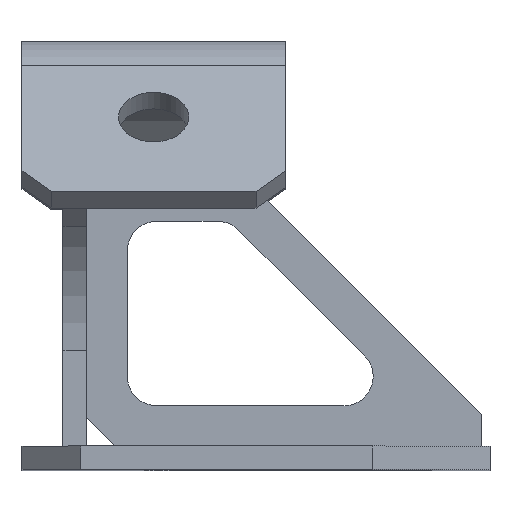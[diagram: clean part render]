
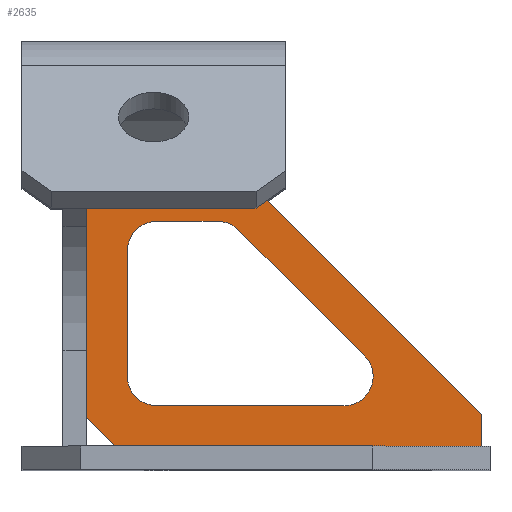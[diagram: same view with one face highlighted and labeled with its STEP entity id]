
A CAD part, top view. The second image highlights one B-rep face of the part: STEP entity #2635.
In plain terms, the highlighted planar face has unit normal (0, 0, 1).
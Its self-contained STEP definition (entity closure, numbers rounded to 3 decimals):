
#441=FACE_BOUND('',#755,.T.);
#515=PLANE('',#2853);
#628=FACE_OUTER_BOUND('',#754,.T.);
#754=EDGE_LOOP('',(#2469,#2470,#2471,#2472,#2473,#2474,#2475));
#755=EDGE_LOOP('',(#2476,#2477,#2478,#2479,#2480,#2481,#2482,#2483));
#950=LINE('',#4204,#1181);
#956=LINE('',#4215,#1187);
#966=LINE('',#4244,#1197);
#969=LINE('',#4249,#1200);
#970=LINE('',#4253,#1201);
#974=LINE('',#4262,#1205);
#977=LINE('',#4270,#1208);
#980=LINE('',#4278,#1211);
#983=LINE('',#4286,#1214);
#985=LINE('',#4289,#1216);
#986=LINE('',#4291,#1217);
#1181=VECTOR('',#3449,10.);
#1187=VECTOR('',#3457,10.);
#1197=VECTOR('',#3479,10.);
#1200=VECTOR('',#3484,10.);
#1201=VECTOR('',#3487,10.);
#1205=VECTOR('',#3497,10.);
#1208=VECTOR('',#3506,10.);
#1211=VECTOR('',#3515,10.);
#1214=VECTOR('',#3524,10.);
#1216=VECTOR('',#3528,10.);
#1217=VECTOR('',#3531,10.);
#1292=CIRCLE('',#2840,5.);
#1293=CIRCLE('',#2843,5.);
#1294=CIRCLE('',#2846,5.);
#1295=CIRCLE('',#2849,5.);
#1527=VERTEX_POINT('',#4202);
#1528=VERTEX_POINT('',#4203);
#1532=VERTEX_POINT('',#4213);
#1545=VERTEX_POINT('',#4243);
#1546=VERTEX_POINT('',#4247);
#1547=VERTEX_POINT('',#4251);
#1548=VERTEX_POINT('',#4252);
#1549=VERTEX_POINT('',#4257);
#1550=VERTEX_POINT('',#4261);
#1551=VERTEX_POINT('',#4265);
#1552=VERTEX_POINT('',#4269);
#1553=VERTEX_POINT('',#4273);
#1554=VERTEX_POINT('',#4277);
#1555=VERTEX_POINT('',#4283);
#1556=VERTEX_POINT('',#4285);
#1821=EDGE_CURVE('',#1527,#1528,#950,.T.);
#1827=EDGE_CURVE('',#1532,#1527,#956,.T.);
#1841=EDGE_CURVE('',#1545,#1532,#966,.T.);
#1844=EDGE_CURVE('',#1545,#1546,#969,.T.);
#1845=EDGE_CURVE('',#1547,#1548,#970,.T.);
#1848=EDGE_CURVE('',#1548,#1549,#1292,.T.);
#1850=EDGE_CURVE('',#1549,#1550,#974,.T.);
#1852=EDGE_CURVE('',#1550,#1551,#1293,.T.);
#1854=EDGE_CURVE('',#1551,#1552,#977,.T.);
#1856=EDGE_CURVE('',#1552,#1553,#1294,.T.);
#1858=EDGE_CURVE('',#1553,#1554,#980,.T.);
#1860=EDGE_CURVE('',#1554,#1547,#1295,.T.);
#1862=EDGE_CURVE('',#1555,#1556,#983,.T.);
#1864=EDGE_CURVE('',#1528,#1555,#985,.T.);
#1865=EDGE_CURVE('',#1546,#1556,#986,.T.);
#2469=ORIENTED_EDGE('',*,*,#1821,.F.);
#2470=ORIENTED_EDGE('',*,*,#1827,.F.);
#2471=ORIENTED_EDGE('',*,*,#1841,.F.);
#2472=ORIENTED_EDGE('',*,*,#1844,.T.);
#2473=ORIENTED_EDGE('',*,*,#1865,.T.);
#2474=ORIENTED_EDGE('',*,*,#1862,.F.);
#2475=ORIENTED_EDGE('',*,*,#1864,.F.);
#2476=ORIENTED_EDGE('',*,*,#1845,.T.);
#2477=ORIENTED_EDGE('',*,*,#1848,.T.);
#2478=ORIENTED_EDGE('',*,*,#1850,.T.);
#2479=ORIENTED_EDGE('',*,*,#1852,.T.);
#2480=ORIENTED_EDGE('',*,*,#1854,.T.);
#2481=ORIENTED_EDGE('',*,*,#1856,.T.);
#2482=ORIENTED_EDGE('',*,*,#1858,.T.);
#2483=ORIENTED_EDGE('',*,*,#1860,.T.);
#2635=ADVANCED_FACE('',(#628,#441),#515,.T.);
#2840=AXIS2_PLACEMENT_3D('',#4258,#3492,#3493);
#2843=AXIS2_PLACEMENT_3D('',#4266,#3501,#3502);
#2846=AXIS2_PLACEMENT_3D('',#4274,#3510,#3511);
#2849=AXIS2_PLACEMENT_3D('',#4281,#3519,#3520);
#2853=AXIS2_PLACEMENT_3D('',#4292,#3532,#3533);
#3449=DIRECTION('',(0.707,0.707,0.));
#3457=DIRECTION('',(0.,1.,0.));
#3479=DIRECTION('',(-0.707,0.707,0.));
#3484=DIRECTION('',(1.,0.,0.));
#3487=DIRECTION('',(0.,1.,0.));
#3492=DIRECTION('center_axis',(0.,0.,-1.));
#3493=DIRECTION('ref_axis',(-1.,0.,0.));
#3497=DIRECTION('',(1.,0.,0.));
#3501=DIRECTION('center_axis',(0.,0.,-1.));
#3502=DIRECTION('ref_axis',(0.,1.,0.));
#3506=DIRECTION('',(0.707,-0.707,0.));
#3510=DIRECTION('center_axis',(0.,0.,-1.));
#3511=DIRECTION('ref_axis',(0.707,0.707,0.));
#3515=DIRECTION('',(-1.,0.,0.));
#3519=DIRECTION('center_axis',(0.,0.,-1.));
#3520=DIRECTION('ref_axis',(0.,-1.,0.));
#3524=DIRECTION('',(0.707,-0.707,0.));
#3528=DIRECTION('',(1.,0.,0.));
#3531=DIRECTION('',(0.,1.,0.));
#3532=DIRECTION('center_axis',(0.,0.,1.));
#3533=DIRECTION('ref_axis',(1.,0.,0.));
#4202=CARTESIAN_POINT('',(-11.5,44.5,2.));
#4203=CARTESIAN_POINT('',(-6.5,49.5,2.));
#4204=CARTESIAN_POINT('',(-20.375,35.625,2.));
#4213=CARTESIAN_POINT('',(-11.5,9.,2.));
#4215=CARTESIAN_POINT('',(-11.5,4.,2.));
#4243=CARTESIAN_POINT('',(-6.5,4.,2.));
#4244=CARTESIAN_POINT('',(-9.,6.5,2.));
#4247=CARTESIAN_POINT('',(56.,4.,2.));
#4249=CARTESIAN_POINT('',(-11.5,4.,2.));
#4251=CARTESIAN_POINT('',(-4.5,16.,2.));
#4252=CARTESIAN_POINT('',(-4.5,37.5,2.));
#4253=CARTESIAN_POINT('',(-4.5,20.75,2.));
#4257=CARTESIAN_POINT('',(0.5,42.5,2.));
#4258=CARTESIAN_POINT('Origin',(0.5,37.5,2.));
#4261=CARTESIAN_POINT('',(11.029,42.5,2.));
#4262=CARTESIAN_POINT('',(-0.235,42.5,2.));
#4265=CARTESIAN_POINT('',(14.565,41.036,2.));
#4266=CARTESIAN_POINT('Origin',(11.029,37.5,2.));
#4269=CARTESIAN_POINT('',(36.065,19.536,2.));
#4270=CARTESIAN_POINT('',(28.058,27.543,2.));
#4273=CARTESIAN_POINT('',(32.529,11.,2.));
#4274=CARTESIAN_POINT('Origin',(32.529,16.,2.));
#4277=CARTESIAN_POINT('',(0.5,11.,2.));
#4278=CARTESIAN_POINT('',(-5.5,11.,2.));
#4281=CARTESIAN_POINT('Origin',(0.5,16.,2.));
#4283=CARTESIAN_POINT('',(16.,49.5,2.));
#4285=CARTESIAN_POINT('',(56.,9.5,2.));
#4286=CARTESIAN_POINT('',(30.5,35.,2.));
#4289=CARTESIAN_POINT('',(-11.5,49.5,2.));
#4291=CARTESIAN_POINT('',(56.,4.,2.));
#4292=CARTESIAN_POINT('Origin',(-11.5,4.,2.));
